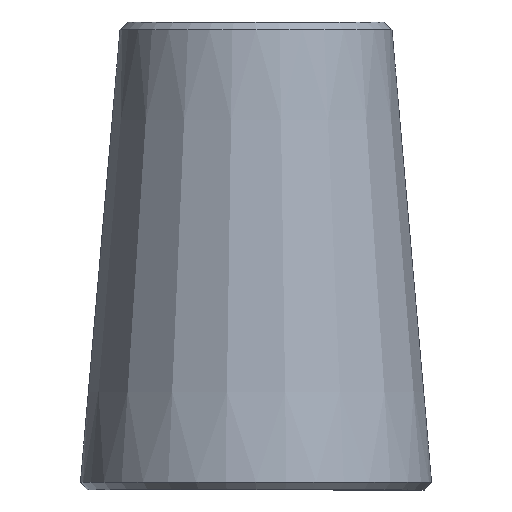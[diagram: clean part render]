
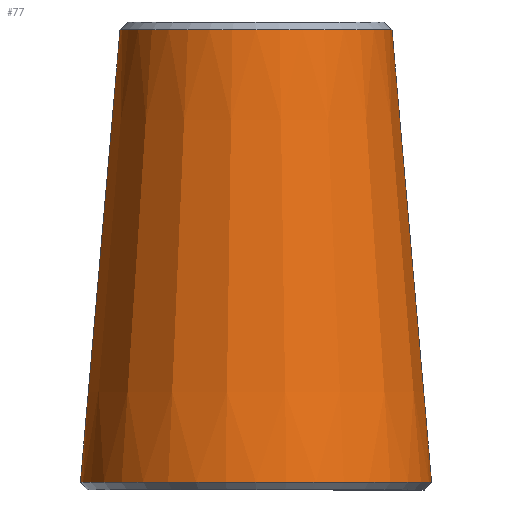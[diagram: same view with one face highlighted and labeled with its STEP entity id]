
A CAD part, left-side view. The second image highlights one B-rep face of the part: STEP entity #77.
In plain terms, the highlighted conical face has half-angle 5 degrees and reference radius 39.773 mm.
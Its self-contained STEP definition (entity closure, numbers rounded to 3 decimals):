
#20=FACE_BOUND('',#34,.T.);
#25=FACE_OUTER_BOUND('',#33,.T.);
#33=EDGE_LOOP('',(#63));
#34=EDGE_LOOP('',(#64));
#44=CIRCLE('',#87,44.826);
#45=CIRCLE('',#89,34.719);
#50=VERTEX_POINT('',#130);
#51=VERTEX_POINT('',#133);
#56=EDGE_CURVE('',#50,#50,#44,.T.);
#57=EDGE_CURVE('',#51,#51,#45,.T.);
#63=ORIENTED_EDGE('',*,*,#57,.F.);
#64=ORIENTED_EDGE('',*,*,#56,.F.);
#74=CONICAL_SURFACE('',#88,39.773,5.);
#77=ADVANCED_FACE('',(#25,#20),#74,.T.);
#87=AXIS2_PLACEMENT_3D('',#131,#104,#105);
#88=AXIS2_PLACEMENT_3D('',#132,#106,#107);
#89=AXIS2_PLACEMENT_3D('',#134,#108,#109);
#104=DIRECTION('center_axis',(0.,0.,
-1.));
#105=DIRECTION('ref_axis',(0.,1.,0.));
#106=DIRECTION('center_axis',(0.,0.,-1.));
#107=DIRECTION('ref_axis',(0.,-1.,0.));
#108=DIRECTION('center_axis',(0.,0.,
1.));
#109=DIRECTION('ref_axis',(0.,1.,0.));
#130=CARTESIAN_POINT('',(0.,-44.826,1.992));
#131=CARTESIAN_POINT('Origin',(0.,0.,1.992));
#132=CARTESIAN_POINT('Origin',(0.,0.,59.75));
#133=CARTESIAN_POINT('',(0.,-34.719,117.508));
#134=CARTESIAN_POINT('Origin',(0.,0.,
117.508));
